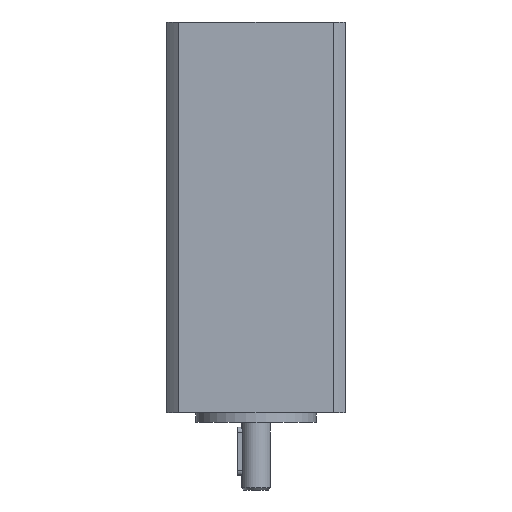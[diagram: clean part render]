
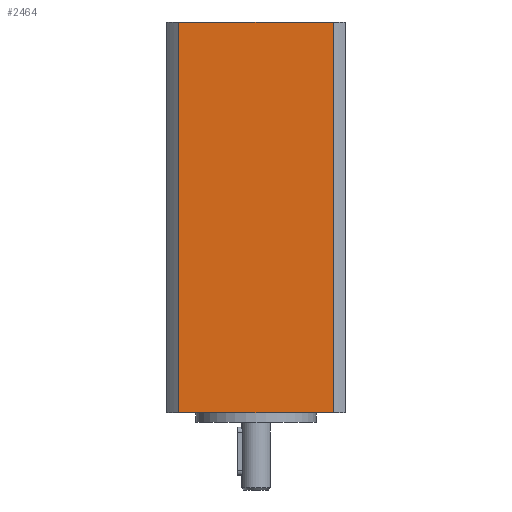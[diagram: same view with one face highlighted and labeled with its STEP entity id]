
A CAD part, front view. The second image highlights one B-rep face of the part: STEP entity #2464.
In plain terms, the highlighted planar face has unit normal (0, -1, 0).
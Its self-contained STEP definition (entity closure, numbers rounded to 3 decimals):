
#2330=CARTESIAN_POINT('',(-16.062,-18.5,81.0));
#2331=VERTEX_POINT('',#2330);
#2332=CARTESIAN_POINT('',(-16.062,-18.5,0.0));
#2333=VERTEX_POINT('',#2332);
#2334=CARTESIAN_POINT('',(-16.062,-18.5,81.0));
#2335=DIRECTION('',(0.0,0.0,-1.0));
#2336=VECTOR('',#2335,81.0);
#2337=LINE('',#2334,#2336);
#2338=EDGE_CURVE('',#2331,#2333,#2337,.T.);
#2382=CARTESIAN_POINT('',(16.062,-18.5,81.0));
#2383=VERTEX_POINT('',#2382);
#2391=CARTESIAN_POINT('',(16.062,-18.5,0.0));
#2392=VERTEX_POINT('',#2391);
#2393=CARTESIAN_POINT('',(16.062,-18.5,0.0));
#2394=DIRECTION('',(0.0,0.0,1.0));
#2395=VECTOR('',#2394,81.0);
#2396=LINE('',#2393,#2395);
#2397=EDGE_CURVE('',#2392,#2383,#2396,.T.);
#2443=CARTESIAN_POINT('',(-17.669,-18.5,85.05));
#2444=DIRECTION('',(0.0,-1.0,0.0));
#2445=DIRECTION('',(0.0,0.0,-1.0));
#2446=AXIS2_PLACEMENT_3D('',#2443,#2444,#2445);
#2447=PLANE('',#2446);
#2448=ORIENTED_EDGE('',*,*,#2338,.T.);
#2449=CARTESIAN_POINT('',(16.062,-18.5,0.0));
#2450=DIRECTION('',(-1.0,0.0,0.0));
#2451=VECTOR('',#2450,32.125);
#2452=LINE('',#2449,#2451);
#2453=EDGE_CURVE('',#2392,#2333,#2452,.T.);
#2454=ORIENTED_EDGE('',*,*,#2453,.F.);
#2455=ORIENTED_EDGE('',*,*,#2397,.T.);
#2456=CARTESIAN_POINT('',(16.062,-18.5,81.0));
#2457=DIRECTION('',(-1.0,0.0,0.0));
#2458=VECTOR('',#2457,32.125);
#2459=LINE('',#2456,#2458);
#2460=EDGE_CURVE('',#2383,#2331,#2459,.T.);
#2461=ORIENTED_EDGE('',*,*,#2460,.T.);
#2462=EDGE_LOOP('',(#2448,#2454,#2455,#2461));
#2463=FACE_OUTER_BOUND('',#2462,.T.);
#2464=ADVANCED_FACE('',(#2463),#2447,.T.);
